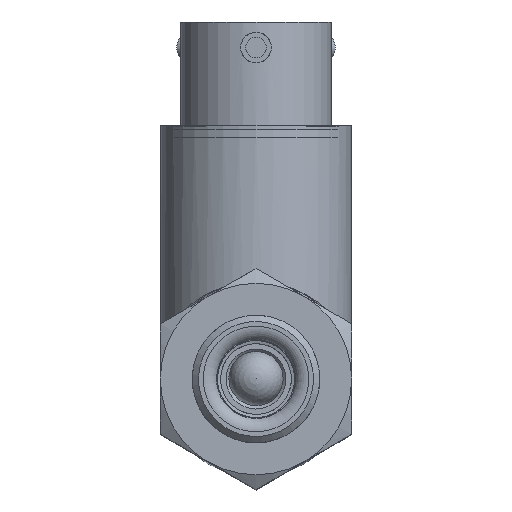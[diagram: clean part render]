
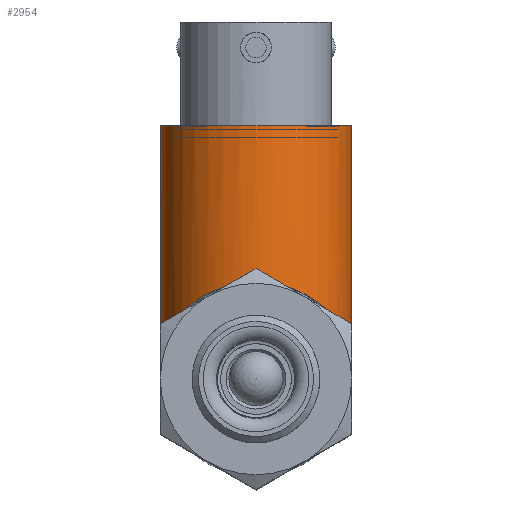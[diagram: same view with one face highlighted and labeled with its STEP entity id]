
A CAD part, top view. The second image highlights one B-rep face of the part: STEP entity #2954.
In plain terms, the highlighted cylindrical face has radius 9.525 mm (diameter 19.05 mm), a full revolution.
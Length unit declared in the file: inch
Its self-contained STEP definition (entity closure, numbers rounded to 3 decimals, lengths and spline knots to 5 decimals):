
#70=B_SPLINE_CURVE_WITH_KNOTS('',3,(#6921,#6922,#6923,#6924,#6925,#6926,
#6927,#6928,#6929,#6930,#6931,#6932,#6933,#6934,#6935,#6936,#6937,#6938,
#6939,#6940,#6941,#6942,#6943,#6944,#6945,#6946,#6947,#6948,#6949,#6950,
#6951,#6952),.UNSPECIFIED.,.F.,.F.,(4,1,1,1,1,1,1,1,1,1,1,1,1,1,1,1,1,1,
1,1,1,1,1,1,1,1,1,1,1,4),(-9.63701,-9.40756,-9.17811,
-8.7192,-8.48975,-8.41326,-8.26029,
-8.10733,-8.03084,-7.95436,-7.80139,
-7.49545,-7.18952,-6.88358,-6.57764,
-6.27171,-5.96577,-5.65983,-5.35389,-5.04796,
-4.93323,-4.81851,-4.70378,-4.58905,
-4.47433,-4.3596,-4.13015,-3.67124,
-3.44179,-3.21234),.UNSPECIFIED.);
#335=FACE_OUTER_BOUND('',#554,.T.);
#554=EDGE_LOOP('',(#2070,#2071,#2072,#2073));
#764=LINE('',#7002,#900);
#900=VECTOR('',#3929,0.375);
#1075=CIRCLE('',#3381,0.375);
#1282=VERTEX_POINT('',#6886);
#1286=VERTEX_POINT('',#7001);
#1573=EDGE_CURVE('',#1282,#1282,#70,.T.);
#1576=EDGE_CURVE('',#1286,#1282,#764,.T.);
#1577=EDGE_CURVE('',#1286,#1286,#1075,.T.);
#2070=ORIENTED_EDGE('',*,*,#1576,.F.);
#2071=ORIENTED_EDGE('',*,*,#1577,.F.);
#2072=ORIENTED_EDGE('',*,*,#1576,.T.);
#2073=ORIENTED_EDGE('',*,*,#1573,.F.);
#2653=CYLINDRICAL_SURFACE('',#3380,0.375);
#2954=ADVANCED_FACE('',(#335),#2653,.T.);
#3380=AXIS2_PLACEMENT_3D('',#7000,#3927,#3928);
#3381=AXIS2_PLACEMENT_3D('',#7003,#3930,#3931);
#3927=DIRECTION('center_axis',(0.,1.,0.));
#3928=DIRECTION('ref_axis',(0.,0.,1.));
#3929=DIRECTION('',(0.,-1.,0.));
#3930=DIRECTION('center_axis',(0.,1.,0.));
#3931=DIRECTION('ref_axis',(0.,0.,1.));
#6886=CARTESIAN_POINT('',(0.,0.3875,-1.575));
#6921=CARTESIAN_POINT('Ctrl Pts',(0.,0.3875,
-1.575));
#6922=CARTESIAN_POINT('Ctrl Pts',(0.03115,0.3875,-1.575));
#6923=CARTESIAN_POINT('Ctrl Pts',(0.09335,0.38032,
-1.5671));
#6924=CARTESIAN_POINT('Ctrl Pts',(0.20458,0.34119,-1.52347));
#6925=CARTESIAN_POINT('Ctrl Pts',(0.28645,0.27754,-1.45122));
#6926=CARTESIAN_POINT('Ctrl Pts',(0.33103,0.21984,-1.3789));
#6927=CARTESIAN_POINT('Ctrl Pts',(0.35196,0.18625,-1.33143));
#6928=CARTESIAN_POINT('Ctrl Pts',(0.36559,0.15997,-1.28933));
#6929=CARTESIAN_POINT('Ctrl Pts',(0.37368,0.14038,-1.24154));
#6930=CARTESIAN_POINT('Ctrl Pts',(0.37544,0.1358,-1.20001));
#6931=CARTESIAN_POINT('Ctrl Pts',(0.37368,0.14035,-1.15839));
#6932=CARTESIAN_POINT('Ctrl Pts',(0.36229,0.1681,-1.09172));
#6933=CARTESIAN_POINT('Ctrl Pts',(0.32973,0.22601,-1.01222));
#6934=CARTESIAN_POINT('Ctrl Pts',(0.26716,0.29413,-0.92981));
#6935=CARTESIAN_POINT('Ctrl Pts',(0.1787,0.35266,-0.86369));
#6936=CARTESIAN_POINT('Ctrl Pts',(0.06403,0.38891,-0.8234));
#6937=CARTESIAN_POINT('Ctrl Pts',(-0.06405,0.38899,-0.82333));
#6938=CARTESIAN_POINT('Ctrl Pts',(-0.17867,0.35265,
-0.86369));
#6939=CARTESIAN_POINT('Ctrl Pts',(-0.26717,0.29411,
-0.92982));
#6940=CARTESIAN_POINT('Ctrl Pts',(-0.32975,0.22594,
-1.01215));
#6941=CARTESIAN_POINT('Ctrl Pts',(-0.36066,0.17107,-1.0879));
#6942=CARTESIAN_POINT('Ctrl Pts',(-0.37301,0.14215,
-1.15337));
#6943=CARTESIAN_POINT('Ctrl Pts',(-0.376,0.13429,
-1.20005));
#6944=CARTESIAN_POINT('Ctrl Pts',(-0.373,0.1422,-1.24662));
#6945=CARTESIAN_POINT('Ctrl Pts',(-0.3651,0.16057,
-1.28881));
#6946=CARTESIAN_POINT('Ctrl Pts',(-0.35345,0.18351,
-1.32737));
#6947=CARTESIAN_POINT('Ctrl Pts',(-0.33324,0.21699,
-1.37529));
#6948=CARTESIAN_POINT('Ctrl Pts',(-0.28646,0.27752,-1.45125));
#6949=CARTESIAN_POINT('Ctrl Pts',(-0.20458,0.3412,
-1.52346));
#6950=CARTESIAN_POINT('Ctrl Pts',(-0.09335,0.38032,
-1.56711));
#6951=CARTESIAN_POINT('Ctrl Pts',(-0.03115,0.3875,
-1.575));
#6952=CARTESIAN_POINT('Ctrl Pts',(0.,0.3875,
-1.575));
#7000=CARTESIAN_POINT('Origin',(0.,0.47,
-1.2));
#7001=CARTESIAN_POINT('',(0.,1.,-1.575));
#7002=CARTESIAN_POINT('',(0.,0.47,-1.575));
#7003=CARTESIAN_POINT('Origin',(0.,1.,
-1.2));
